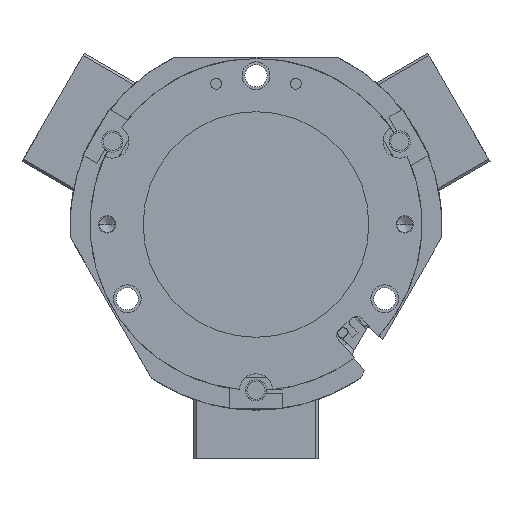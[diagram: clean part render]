
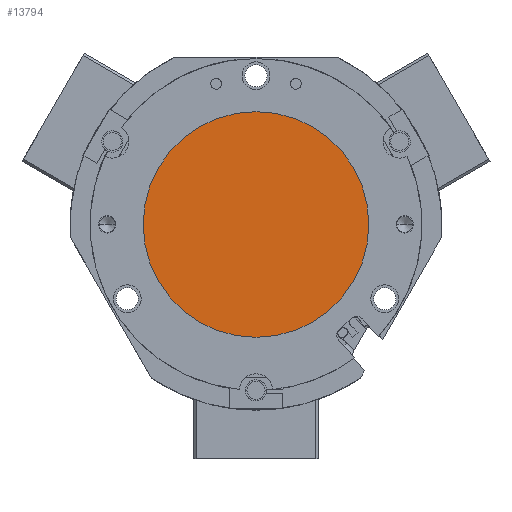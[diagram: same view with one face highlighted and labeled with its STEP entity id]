
A CAD part, front view. The second image highlights one B-rep face of the part: STEP entity #13794.
In plain terms, the highlighted planar face has unit normal (0, -1, 0) as drawn and (0, 1, 0) by its records, which use the part's own axes.
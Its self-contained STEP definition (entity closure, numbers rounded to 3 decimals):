
#2274 = EDGE_LOOP ( 'NONE', ( #10045, #12671 ) ) ;
#3498 = CARTESIAN_POINT ( 'NONE',  ( 0., 5.5, 42.5 ) ) ;
#5553 = CARTESIAN_POINT ( 'NONE',  ( 0., 5.5, 0. ) ) ;
#6302 = AXIS2_PLACEMENT_3D ( 'NONE', #7742, #18330, #9252 ) ;
#6359 = CARTESIAN_POINT ( 'NONE',  ( 0., 5.5, 0. ) ) ;
#6505 = EDGE_CURVE ( 'NONE', #17238, #19032, #9673, .T. ) ;
#7095 = DIRECTION ( 'NONE',  ( 0., 0., -1. ) ) ;
#7742 = CARTESIAN_POINT ( 'NONE',  ( 0., 5.5, 0. ) ) ;
#7873 = DIRECTION ( 'NONE',  ( 0., 0., 1. ) ) ;
#9252 = DIRECTION ( 'NONE',  ( 0., 0., -1. ) ) ;
#9312 = PLANE ( 'NONE',  #18895 ) ;
#9673 = CIRCLE ( 'NONE', #6302, 42.5 ) ;
#10045 = ORIENTED_EDGE ( 'NONE', *, *, #11725, .T. ) ;
#10176 = CIRCLE ( 'NONE', #17598, 42.5 ) ;
#11725 = EDGE_CURVE ( 'NONE', #19032, #17238, #10176, .T. ) ;
#12035 = CARTESIAN_POINT ( 'NONE',  ( 0., 5.5, -42.5 ) ) ;
#12671 = ORIENTED_EDGE ( 'NONE', *, *, #6505, .T. ) ;
#13473 = FACE_OUTER_BOUND ( 'NONE', #2274, .T. ) ;
#13794 = ADVANCED_FACE ( 'NONE', ( #13473 ), #9312, .T. ) ;
#16158 = DIRECTION ( 'NONE',  ( 0., 1., 0. ) ) ;
#16921 = DIRECTION ( 'NONE',  ( 0., 1., 0. ) ) ;
#17238 = VERTEX_POINT ( 'NONE', #3498 ) ;
#17598 = AXIS2_PLACEMENT_3D ( 'NONE', #5553, #16158, #7095 ) ;
#18330 = DIRECTION ( 'NONE',  ( 0., 1., 0. ) ) ;
#18895 = AXIS2_PLACEMENT_3D ( 'NONE', #6359, #16921, #7873 ) ;
#19032 = VERTEX_POINT ( 'NONE', #12035 ) ;
